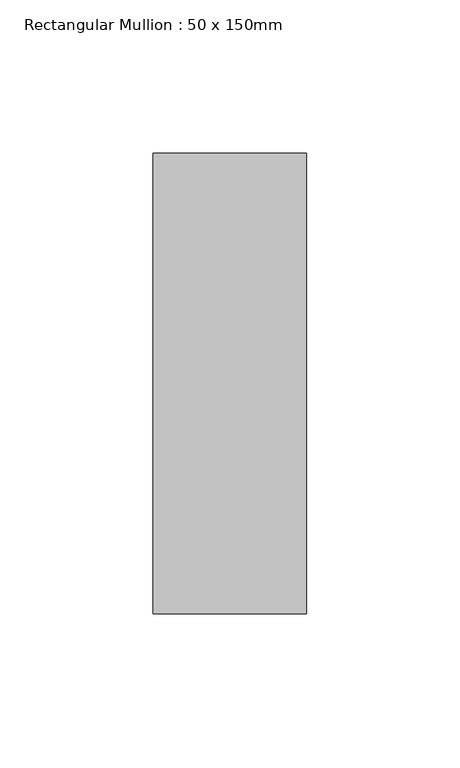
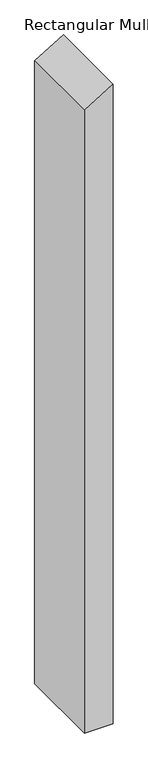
"""IFC4 building model written with IfcOpenShell, lengths in millimetres: member geometry, Rectangular Mullion : 50 x 150mm."""

from ifc_helpers import new_model, si_unit, frame, origin, place, context, project, spatial, polyline, outline, extrude, source, transform, mapped, element, save


def rectangular_mullion_50_x_150mm_128d93fb(model_context):
    return source(origin(), model_context, "Body", "SweptSolid", [
        extrude(outline(polyline([(0.0, 0.0), (-30.4434341, -50.0), (-1175.169852, -50.0), (-1175.169852, 0.0), (0.0, 0.0)])), frame((0.0, -75.0, 0.0), z_axis=(0.0, 1.0, 0.0), x_axis=(0.0, 0.0, 1.0)), (0.0, 0.0, 1.0), 150.0),
    ])


if __name__ == "__main__":
    model = new_model("IFC4")
    model_context = context("Model", 3, world=origin())
    ifc_project = project(units=[si_unit("LENGTHUNIT", "METRE", prefix="MILLI")], contexts=[model_context])
    site = spatial("IfcSite", under=ifc_project)
    building = spatial("IfcBuilding", under=site)
    placement = place(None, origin())
    rectangular_mullion_50_x_150mm_shape = rectangular_mullion_50_x_150mm_128d93fb(model_context)
    element("IfcMember", 1, ObjectType="Rectangular Mullion : 50 x 150mm", at=placement, inside=building, context=model_context, shape_type="MappedRepresentation", body=[
        mapped(rectangular_mullion_50_x_150mm_shape, transform((0.0, 0.0, 0.0), x_axis=(1.0, 0.0, 0.0), y_axis=(0.0, 1.0, 0.0), z_axis=(0.0, 0.0, 1.0))),
    ])
    save(model, "model.ifc")
